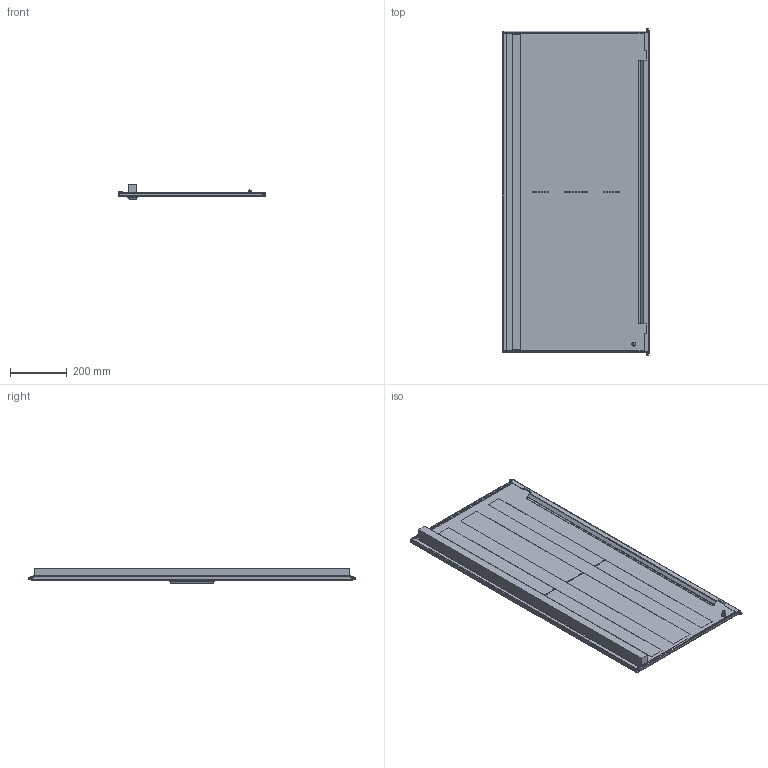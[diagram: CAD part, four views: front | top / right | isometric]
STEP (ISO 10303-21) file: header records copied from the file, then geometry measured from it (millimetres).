
FILE_DESCRIPTION (( 'STEP AP203' ), '1' );
FILE_NAME ('D 120.60 IP Äâåðü òåëåêîììóíèêàöèîííàÿ ïåðôîðèðîâàííàÿ.STEP', '2013-01-15T06:46:56', ( 'System' ), ( '' ), 'SwSTEP 2.0', 'SolidWorks 2012', '' );
FILE_SCHEMA (( 'CONFIG_CONTROL_DESIGN' ));
Length unit declared in the file: millimetre
Products named in the file (1): D 120.60 IP Äâåðü òåëåêîììóíèêàöèîííàÿ ïåðôîðèðîâàííàÿ
Bounding box: 518 x 1153.5 x 55 mm (x, y, z)
Volume: 2332737.9 mm3; surface area: 1470783.1 mm2
Topology: 5 solids, 5 shells, 258 faces, 626 edges, 366 vertices
Faces by surface type: cylinder 124, plane 86, sphere 24, cone 20, torus 4
Entity records: 7521 total; most frequent: DIRECTION 1402, CARTESIAN_POINT 1231, ORIENTED_EDGE 1212, EDGE_CURVE 606, AXIS2_PLACEMENT_3D 537, VERTEX_POINT 366, VECTOR 328, LINE 328
